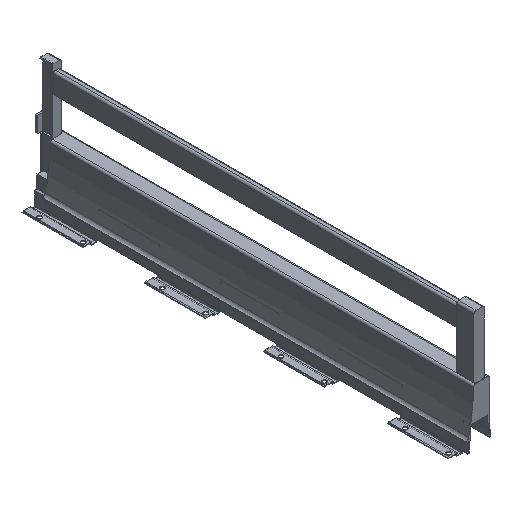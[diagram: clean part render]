
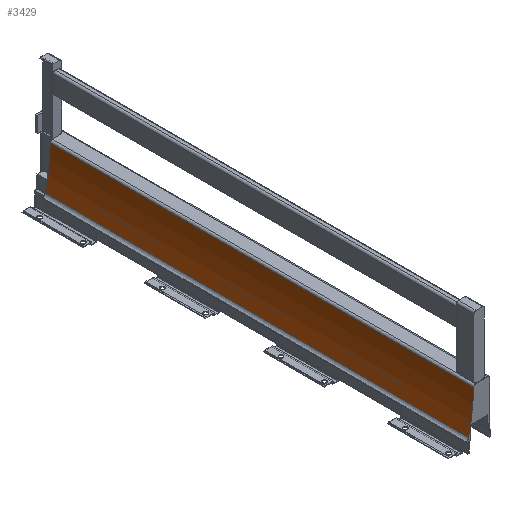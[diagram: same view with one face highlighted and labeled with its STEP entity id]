
A CAD part, isometric view. The second image highlights one B-rep face of the part: STEP entity #3429.
In plain terms, the highlighted cylindrical face has radius 350 mm (diameter 700 mm), a partial arc.
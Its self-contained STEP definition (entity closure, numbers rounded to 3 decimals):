
#165 = FACE_OUTER_BOUND ( 'NONE', #486, .T. ) ;
#167 = CYLINDRICAL_SURFACE ( 'NONE', #1985, 350. ) ;
#486 = EDGE_LOOP ( 'NONE', ( #3146, #2558, #2530, #3135 ) ) ;
#839 = LINE ( 'NONE', #4244, #845 ) ;
#845 = VECTOR ( 'NONE', #4249, 1000. ) ;
#1176 = CIRCLE ( 'NONE', #2281, 350. ) ;
#1200 = LINE ( 'NONE', #4657, #1201 ) ;
#1201 = VECTOR ( 'NONE', #4658, 1000. ) ;
#1546 = CIRCLE ( 'NONE', #2024, 350. ) ;
#1765 = EDGE_CURVE ( 'NONE', #3781, #3900, #839, .T. ) ;
#1985 = AXIS2_PLACEMENT_3D ( 'NONE', #5456, #5455, #5454 ) ;
#2024 = AXIS2_PLACEMENT_3D ( 'NONE', #5064, #5069, #5070 ) ;
#2034 = EDGE_CURVE ( 'NONE', #3901, #3900, #1176, .T. ) ;
#2058 = EDGE_CURVE ( 'NONE', #3777, #3901, #1200, .T. ) ;
#2281 = AXIS2_PLACEMENT_3D ( 'NONE', #4611, #4618, #4619 ) ;
#2347 = EDGE_CURVE ( 'NONE', #3777, #3781, #1546, .T. ) ;
#2530 = ORIENTED_EDGE ( 'NONE', *, *, #2034, .T. ) ;
#2558 = ORIENTED_EDGE ( 'NONE', *, *, #2058, .T. ) ;
#3135 = ORIENTED_EDGE ( 'NONE', *, *, #1765, .F. ) ;
#3146 = ORIENTED_EDGE ( 'NONE', *, *, #2347, .F. ) ;
#3429 = ADVANCED_FACE ( 'NONE', ( #165 ), #167, .F. ) ;
#3777 = VERTEX_POINT ( 'NONE', #6033 ) ;
#3781 = VERTEX_POINT ( 'NONE', #6034 ) ;
#3900 = VERTEX_POINT ( 'NONE', #6157 ) ;
#3901 = VERTEX_POINT ( 'NONE', #6158 ) ;
#4244 = CARTESIAN_POINT ( 'NONE',  ( -19.88, 640., 46.603 ) ) ;
#4249 = DIRECTION ( 'NONE',  ( 0., -1., 0. ) ) ;
#4611 = CARTESIAN_POINT ( 'NONE',  ( -369.665, 0., 58.86 ) ) ;
#4618 = DIRECTION ( 'NONE',  ( 0., -1., 0. ) ) ;
#4619 = DIRECTION ( 'NONE',  ( -1., 0., 0. ) ) ;
#4657 = CARTESIAN_POINT ( 'NONE',  ( -27.279, 640., -13.745 ) ) ;
#4658 = DIRECTION ( 'NONE',  ( 0., -1., 0. ) ) ;
#5064 = CARTESIAN_POINT ( 'NONE',  ( -369.665, 623.8, 58.86 ) ) ;
#5069 = DIRECTION ( 'NONE',  ( 0., -1., 0. ) ) ;
#5070 = DIRECTION ( 'NONE',  ( -1., 0., 0. ) ) ;
#5454 = DIRECTION ( 'NONE',  ( 1., 0., 0. ) ) ;
#5455 = DIRECTION ( 'NONE',  ( 0., -1., 0. ) ) ;
#5456 = CARTESIAN_POINT ( 'NONE',  ( -369.665, 640., 58.86 ) ) ;
#6033 = CARTESIAN_POINT ( 'NONE',  ( -27.279, 623.8, -13.745 ) ) ;
#6034 = CARTESIAN_POINT ( 'NONE',  ( -19.88, 623.8, 46.603 ) ) ;
#6157 = CARTESIAN_POINT ( 'NONE',  ( -19.88, 0., 46.603 ) ) ;
#6158 = CARTESIAN_POINT ( 'NONE',  ( -27.279, 0., -13.745 ) ) ;
